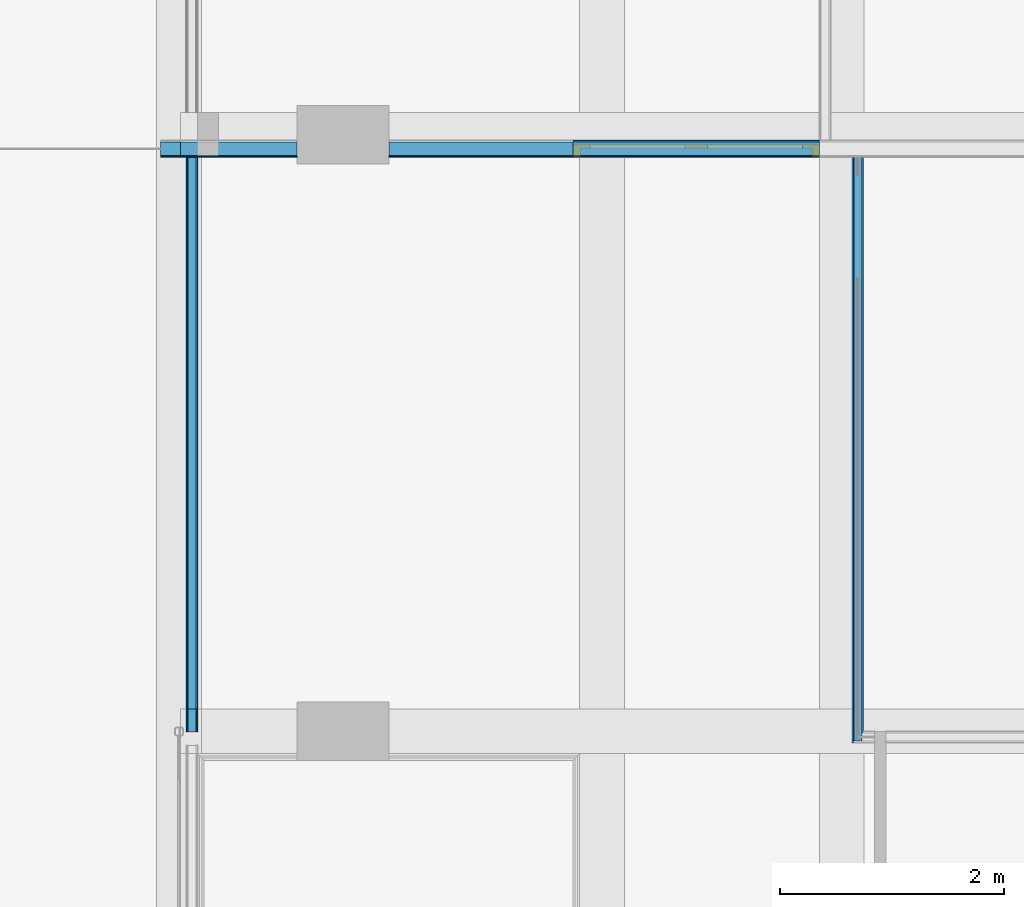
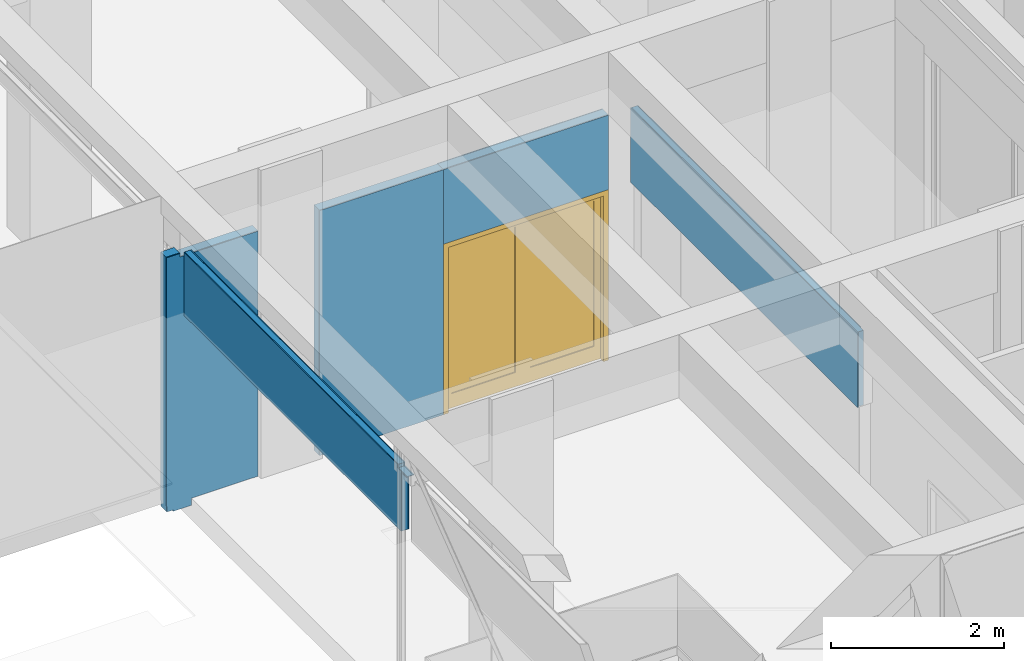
# One storey, part 79 of 117: 11 building element parts, 1 door, 1 opening, 4 elements without a shape of their own.
"""IFC2X3 building model written with IfcOpenShell, lengths in millimetres."""

from ifc_helpers import new_model, entity, si_unit, converted_unit, derived_unit, money_unit, direction, frame, origin_with_axes, place, context, subcontext, project, spatial, open_shell, faceted_brep, surface_model, material, type_object, element, fill, aggregate, save


model = new_model("IFC2X3")

# Units and contexts
model_context = context("Model", 3, precision=0.01, world=origin_with_axes(), true_north=direction((0.0, 1.0)))
body_context = subcontext(model_context, "Body", "Model", "MODEL_VIEW")
ifc_project = project(units=[si_unit("LENGTHUNIT", "METRE", prefix="MILLI"), si_unit("AREAUNIT", "SQUARE_METRE"), si_unit("VOLUMEUNIT", "CUBIC_METRE"), converted_unit("PLANEANGLEUNIT", "DEGREE", entity("IfcPlaneAngleMeasure", 0.0174532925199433), si_unit("PLANEANGLEUNIT", "RADIAN"), dimensions=[0, 0, 0, 0, 0, 0, 0]), money_unit("EUR"), converted_unit("TIMEUNIT", "Year", entity("IfcTimeMeasure", 31557600.0), si_unit("TIMEUNIT", "SECOND"), dimensions=[0, 0, 1, 0, 0, 0, 0]), si_unit("MASSUNIT", "GRAM", prefix="KILO"), si_unit("THERMODYNAMICTEMPERATUREUNIT", "DEGREE_CELSIUS"), si_unit("LUMINOUSINTENSITYUNIT", "LUMEN"), si_unit("ENERGYUNIT", "JOULE", prefix="MEGA"), derived_unit("THERMALCONDUCTANCEUNIT", [(si_unit("POWERUNIT", "WATT"), 1), (si_unit("LENGTHUNIT", "METRE"), -1), (si_unit("THERMODYNAMICTEMPERATUREUNIT", "KELVIN"), -1)]), derived_unit("SPECIFICHEATCAPACITYUNIT", [(si_unit("ENERGYUNIT", "JOULE"), 1), (si_unit("MASSUNIT", "GRAM", prefix="KILO"), -1), (si_unit("THERMODYNAMICTEMPERATUREUNIT", "KELVIN"), -1)]), derived_unit("MASSDENSITYUNIT", [(si_unit("MASSUNIT", "GRAM", prefix="KILO"), 1), (si_unit("VOLUMEUNIT", "CUBIC_METRE"), -1)])], contexts=[model_context])

# Site, building, storey
site_placement = place(None, origin_with_axes())
site = spatial("IfcSite", under=ifc_project, at=site_placement, Name="Site", CompositionType="ELEMENT")
building_placement = place(site_placement, origin_with_axes())
building = spatial("IfcBuilding", under=site, at=building_placement, Name="Naam gebouw", CompositionType="ELEMENT")
storey_placement = place(building_placement, frame((0.0, 0.0, 4150.0), z_axis=(0.0, 0.0, 1.0), x_axis=(1.0, 0.0, 0.0)))
storey = spatial("IfcBuildingStorey", under=building, at=storey_placement, Name="1e verdieping N", CompositionType="ELEMENT", Elevation=4150.0)

# Door
door_style = type_object("IfcDoorStyle", Name="D2 27", ConstructionType="NOTDEFINED", OperationType="DOUBLE_DOOR_SINGLE_SWING", ParameterTakesPrecedence=False, Sizeable=False)
wall_4_placement = place(storey_placement, frame((26092.64071208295, 33235.9124251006, -99.99999999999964), z_axis=(0.0, 0.0, 1.0), x_axis=(-1.0, 0.0, 0.0)))
opening_placement = place(wall_4_placement, frame((1099.982116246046, 0.0, 99.99999999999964), z_axis=(0.0, 0.0, 1.0), x_axis=(1.0, 0.0, 0.0)))
door_placement = place(opening_placement, frame((1099.982116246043, 0.0, 0.0), z_axis=(0.0, 0.0, 1.0), x_axis=(-1.0, 0.0, 0.0)))
door = element("IfcDoor", 1, at=door_placement, inside=storey, type_object=door_style, Name="_Merk-x", ObjectType="DOOR", OverallHeight=2400.0, OverallWidth=2199.96, context=body_context, shape_type="SurfaceModel", body=[
    faceted_brep([(67.00000000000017, -76.00000000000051, 0.0), (67.00000000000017, -76.00000000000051, 2333.0), (67.00000000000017, -149.9999999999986, 2333.0), (67.00000000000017, -149.9999999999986, 0.0), (50.00000000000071, -76.00000000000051, 2333.0), (50.00000000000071, -76.00000000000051, 0.0), (50.00000000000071, -36.00000000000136, 2333.0), (0.0, -36.00000000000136, 2333.0), (0.0, -149.9999999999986, 2333.0), (0.0, -149.9999999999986, 0.0), (0.0, -36.00000000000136, 0.0), (50.00000000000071, -36.00000000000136, 0.0)], [[[0, 1, 2, 3]], [[4, 1, 0, 5]], [[4, 6, 7, 8, 2, 1]], [[3, 2, 8, 9]], [[5, 0, 3, 9, 10, 11]], [[6, 4, 5, 11]], [[6, 11, 10, 7]], [[10, 9, 8, 7]]]),
    faceted_brep([(2149.964232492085, -76.00000000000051, 2333.0), (2132.964232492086, -76.00000000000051, 2333.0), (2132.964232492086, -149.9999999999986, 2333.0), (2199.964232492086, -149.9999999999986, 2333.0), (2199.964232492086, -36.00000000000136, 2333.0), (2149.964232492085, -36.00000000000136, 2333.0), (2149.964232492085, -76.00000000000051, 0.0), (2132.964232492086, -76.00000000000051, 0.0), (2132.964232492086, -149.9999999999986, 0.0), (2199.964232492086, -149.9999999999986, 0.0), (2199.964232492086, -36.00000000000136, 0.0), (2149.964232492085, -36.00000000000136, 0.0)], [[[0, 1, 2, 3, 4, 5]], [[1, 0, 6, 7]], [[1, 7, 8, 2]], [[3, 2, 8, 9]], [[4, 3, 9, 10]], [[11, 5, 4, 10]], [[0, 5, 11, 6]], [[6, 11, 10, 9, 8, 7]]]),
    faceted_brep([(50.00000000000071, -36.00000000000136, 2350.0), (50.00000000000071, -36.00000000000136, 2333.0), (0.0, -36.00000000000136, 2333.0), (0.0, -36.00000000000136, 2400.0), (2199.964232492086, -36.00000000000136, 2400.0), (2199.964232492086, -36.00000000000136, 2333.0), (2149.964232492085, -36.00000000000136, 2333.0), (2149.964232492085, -36.00000000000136, 2350.0), (50.00000000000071, -76.00000000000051, 2350.0), (50.00000000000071, -76.00000000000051, 2333.0), (67.00000000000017, -76.00000000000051, 2333.0), (67.00000000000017, -149.9999999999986, 2333.0), (0.0, -149.9999999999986, 2333.0), (0.0, -149.9999999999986, 2400.0), (2199.964232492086, -149.9999999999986, 2400.0), (2199.964232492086, -149.9999999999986, 2333.0), (2149.964232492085, -76.00000000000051, 2333.0), (2132.964232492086, -149.9999999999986, 2333.0), (2132.964232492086, -76.00000000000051, 2333.0), (2149.964232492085, -76.00000000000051, 2350.0)], [[[0, 1, 2, 3, 4, 5, 6, 7]], [[1, 0, 8, 9]], [[9, 10, 11, 12, 2, 1]], [[2, 12, 13, 3]], [[3, 13, 14, 4]], [[4, 14, 15, 5]], [[16, 6, 5, 15, 17, 18]], [[7, 6, 16, 19]], [[0, 7, 19, 8]], [[16, 18, 10, 9, 8, 19]], [[10, 18, 17, 11]], [[17, 15, 14, 13, 12, 11]]]),
    faceted_brep([(2149.964232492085, -36.00000000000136, 200.0000000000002), (2149.964232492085, -76.00000000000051, 200.0000000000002), (2049.964232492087, -76.00000000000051, 200.0000000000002), (2049.964232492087, -36.00000000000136, 200.0000000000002), (2149.964232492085, -36.00000000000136, 2250.0), (2149.964232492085, -76.00000000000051, 2250.0), (2049.964232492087, -76.00000000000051, 2250.0), (2049.964232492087, -36.00000000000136, 2250.0)], [[[0, 1, 2, 3]], [[4, 5, 1, 0]], [[1, 5, 6, 2]], [[3, 2, 6, 7]], [[0, 3, 7, 4]], [[7, 6, 5, 4]]]),
    faceted_brep([(1099.982116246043, -36.00000000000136, 200.0000000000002), (1099.982116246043, -76.00000000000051, 200.0000000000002), (1099.982116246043, -76.00000000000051, 2250.0), (1099.982116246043, -36.00000000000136, 2250.0), (1199.982116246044, -36.00000000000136, 200.0000000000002), (1199.982116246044, -76.00000000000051, 200.0000000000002), (1199.982116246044, -76.00000000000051, 2250.0), (1199.982116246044, -36.00000000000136, 2250.0)], [[[0, 1, 2, 3]], [[4, 5, 1, 0]], [[1, 5, 6, 2]], [[3, 2, 6, 7]], [[0, 3, 7, 4]], [[7, 6, 5, 4]]]),
    faceted_brep([(2149.964232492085, -36.00000000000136, 0.0), (2149.964232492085, -76.00000000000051, 0.0), (1099.982116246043, -76.00000000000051, 0.0), (1099.982116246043, -36.00000000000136, 0.0), (2149.964232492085, -36.00000000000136, 200.0000000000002), (2149.964232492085, -76.00000000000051, 200.0000000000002), (2049.964232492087, -76.00000000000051, 200.0000000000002), (1199.982116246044, -76.00000000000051, 200.0000000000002), (1099.982116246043, -76.00000000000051, 200.0000000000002), (1099.982116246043, -36.00000000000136, 200.0000000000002), (1199.982116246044, -36.00000000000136, 200.0000000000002), (2049.964232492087, -36.00000000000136, 200.0000000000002)], [[[0, 1, 2, 3]], [[4, 5, 1, 0]], [[1, 5, 6, 7, 8, 2]], [[3, 2, 8, 9]], [[0, 3, 9, 10, 11, 4]], [[11, 6, 5, 4]], [[10, 7, 6, 11]], [[9, 8, 7, 10]]]),
    faceted_brep([(2149.964232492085, -36.00000000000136, 2350.0), (2149.964232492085, -76.00000000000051, 2350.0), (2149.964232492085, -76.00000000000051, 2250.0), (2149.964232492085, -36.00000000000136, 2250.0), (1099.982116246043, -36.00000000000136, 2350.0), (1099.982116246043, -76.00000000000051, 2350.0), (1099.982116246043, -76.00000000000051, 2250.0), (1199.982116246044, -76.00000000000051, 2250.0), (2049.964232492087, -76.00000000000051, 2250.0), (2049.964232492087, -36.00000000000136, 2250.0), (1199.982116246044, -36.00000000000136, 2250.0), (1099.982116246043, -36.00000000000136, 2250.0)], [[[0, 1, 2, 3]], [[4, 5, 1, 0]], [[1, 5, 6, 7, 8, 2]], [[3, 2, 8, 9]], [[0, 3, 9, 10, 11, 4]], [[11, 6, 5, 4]], [[10, 7, 6, 11]], [[9, 8, 7, 10]]]),
    surface_model("IfcShellBasedSurfaceModel", [(2049.964232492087, -50.00000000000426, 200.0000000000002), (1199.982116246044, -50.00000000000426, 200.0000000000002), (1199.982116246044, -50.00000000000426, 2250.0), (2049.964232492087, -50.00000000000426, 2250.0)], [open_shell([[[0, 1, 2, 3]]])]),
    surface_model("IfcShellBasedSurfaceModel", [(2049.964232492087, -62.00000000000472, 200.0000000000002), (2049.964232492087, -62.00000000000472, 2250.0), (1199.982116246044, -62.00000000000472, 2250.0), (1199.982116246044, -62.00000000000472, 200.0000000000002)], [open_shell([[[0, 1, 2, 3]]])]),
    faceted_brep([(50.00000000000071, -36.00000000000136, 200.0000000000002), (149.9999999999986, -36.00000000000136, 200.0000000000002), (149.9999999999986, -76.00000000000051, 200.0000000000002), (50.00000000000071, -76.00000000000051, 200.0000000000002), (50.00000000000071, -36.00000000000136, 2250.0), (149.9999999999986, -36.00000000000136, 2250.0), (149.9999999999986, -76.00000000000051, 2250.0), (50.00000000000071, -76.00000000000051, 2250.0)], [[[0, 1, 2, 3]], [[0, 4, 5, 1]], [[1, 5, 6, 2]], [[3, 2, 6, 7]], [[4, 0, 3, 7]], [[5, 4, 7, 6]]]),
    faceted_brep([(1099.982116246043, -36.00000000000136, 200.0000000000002), (1099.982116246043, -36.00000000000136, 2250.0), (1099.982116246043, -76.00000000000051, 2250.0), (1099.982116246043, -76.00000000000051, 200.0000000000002), (999.9821162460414, -36.00000000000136, 200.0000000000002), (999.9821162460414, -36.00000000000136, 2250.0), (999.9821162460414, -76.00000000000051, 2250.0), (999.9821162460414, -76.00000000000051, 200.0000000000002)], [[[0, 1, 2, 3]], [[0, 4, 5, 1]], [[1, 5, 6, 2]], [[3, 2, 6, 7]], [[4, 0, 3, 7]], [[5, 4, 7, 6]]]),
    faceted_brep([(50.00000000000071, -36.00000000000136, 0.0), (1099.982116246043, -36.00000000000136, 0.0), (1099.982116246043, -76.00000000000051, 0.0), (50.00000000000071, -76.00000000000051, 0.0), (50.00000000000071, -36.00000000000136, 200.0000000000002), (149.9999999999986, -36.00000000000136, 200.0000000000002), (999.9821162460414, -36.00000000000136, 200.0000000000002), (1099.982116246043, -36.00000000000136, 200.0000000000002), (1099.982116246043, -76.00000000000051, 200.0000000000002), (999.9821162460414, -76.00000000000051, 200.0000000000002), (149.9999999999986, -76.00000000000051, 200.0000000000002), (50.00000000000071, -76.00000000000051, 200.0000000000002)], [[[0, 1, 2, 3]], [[0, 4, 5, 6, 7, 1]], [[1, 7, 8, 2]], [[3, 2, 8, 9, 10, 11]], [[4, 0, 3, 11]], [[5, 4, 11, 10]], [[6, 5, 10, 9]], [[7, 6, 9, 8]]]),
    faceted_brep([(50.00000000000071, -36.00000000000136, 2350.0), (50.00000000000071, -36.00000000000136, 2250.0), (50.00000000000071, -76.00000000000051, 2250.0), (50.00000000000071, -76.00000000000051, 2350.0), (1099.982116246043, -36.00000000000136, 2350.0), (1099.982116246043, -36.00000000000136, 2250.0), (999.9821162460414, -36.00000000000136, 2250.0), (149.9999999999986, -36.00000000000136, 2250.0), (149.9999999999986, -76.00000000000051, 2250.0), (999.9821162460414, -76.00000000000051, 2250.0), (1099.982116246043, -76.00000000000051, 2250.0), (1099.982116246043, -76.00000000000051, 2350.0)], [[[0, 1, 2, 3]], [[0, 4, 5, 6, 7, 1]], [[1, 7, 8, 2]], [[3, 2, 8, 9, 10, 11]], [[4, 0, 3, 11]], [[5, 4, 11, 10]], [[6, 5, 10, 9]], [[7, 6, 9, 8]]]),
    surface_model("IfcShellBasedSurfaceModel", [(149.9999999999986, -50.00000000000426, 200.0000000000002), (149.9999999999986, -50.00000000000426, 2250.0), (999.9821162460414, -50.00000000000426, 2250.0), (999.9821162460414, -50.00000000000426, 200.0000000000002)], [open_shell([[[0, 1, 2, 3]]])]),
    surface_model("IfcShellBasedSurfaceModel", [(149.9999999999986, -61.99999999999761, 200.0000000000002), (999.9821162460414, -62.00000000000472, 200.0000000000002), (999.9821162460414, -62.00000000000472, 2250.0), (149.9999999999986, -62.00000000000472, 2250.0)], [open_shell([[[0, 1, 2, 3]]])]),
])

# Wall, building element parts
wall_type_1 = type_object("IfcWallType", Name="Metalstud iso 100 100", PredefinedType="NOTDEFINED")
wall_1_placement = place(storey_placement, frame((20536.00000000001, 27950.91242634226, 2609.999999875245), z_axis=(0.0, 0.0, 1.0), x_axis=(0.0, 1.0, 0.0)))
wall_1 = element("IfcWall", 2, at=wall_1_placement, inside=storey, type_object=wall_type_1, Name="_Wand-x")
ifc_material_1 = material(Name="Isolatie - Steenwol LSW")
building_element_part_1_placement = place(wall_1_placement, origin_with_axes())
building_element_part_1 = element("IfcBuildingElementPart", 3, at=building_element_part_1_placement, material=ifc_material_1, Name="Isolatie - Steenwol LSW", context=body_context, shape_type="Brep", body=[
    faceted_brep([(204.9999987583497, 87.49999999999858, 890.0000001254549), (204.9999987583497, 12.49999999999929, 890.0000001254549), (5134.999936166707, 12.49999999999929, 890.0000001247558), (5134.999936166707, 87.49999999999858, 890.0000001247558), (204.9999987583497, 12.49999999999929, 839.9999999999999), (204.9999987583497, 87.49999999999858, 839.9999999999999), (0.0, 12.49999999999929, 839.9999999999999), (0.0, 12.49999999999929, 830.0000001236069), (119.9999999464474, 12.49999999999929, 830.0000001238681), (119.9999999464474, 12.49999999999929, 0.0), (5134.999936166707, 12.49999999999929, 0.0), (5134.999936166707, 87.49999999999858, 0.0), (119.9999999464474, 87.49999999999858, 0.0), (119.9999999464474, 87.49999999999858, 830.0000001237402), (0.0, 87.49999999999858, 830.0000001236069), (0.0, 87.49999999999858, 839.9999999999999)], [[[0, 1, 2, 3]], [[4, 1, 0, 5]], [[4, 6, 7, 8, 9, 10, 2, 1]], [[10, 11, 3, 2]], [[5, 0, 3, 11, 12, 13, 14, 15]], [[6, 4, 5, 15]], [[6, 15, 14, 7]], [[14, 13, 8, 7]], [[12, 9, 8, 13]], [[10, 9, 12, 11]]]),
])
ifc_material_2 = material(Name="Gipsplaat")
building_element_part_2_placement = place(wall_1_placement, origin_with_axes())
building_element_part_2 = element("IfcBuildingElementPart", 4, at=building_element_part_2_placement, material=ifc_material_2, Name="Gipsplaat", context=body_context, shape_type="Brep", body=[
    faceted_brep([(204.9999987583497, 12.49999999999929, 890.0000001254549), (204.9999987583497, 0.0, 890.0000001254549), (5134.999936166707, 0.0, 890.0000001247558), (5134.999936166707, 12.49999999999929, 890.0000001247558), (204.9999987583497, 0.0, 839.9999999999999), (204.9999987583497, 12.49999999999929, 839.9999999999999), (0.0, 0.0, 839.9999999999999), (0.0, 0.0, 830.0000001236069), (119.9999999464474, 0.0, 830.0000001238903), (119.9999999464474, 0.0, 0.0), (5134.999936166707, 0.0, 0.0), (5134.999936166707, 12.49999999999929, 0.0), (119.9999999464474, 12.49999999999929, 0.0), (119.9999999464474, 12.49999999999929, 830.0000001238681), (0.0, 12.49999999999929, 830.0000001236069), (0.0, 12.49999999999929, 839.9999999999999)], [[[0, 1, 2, 3]], [[4, 1, 0, 5]], [[4, 6, 7, 8, 9, 10, 2, 1]], [[10, 11, 3, 2]], [[5, 0, 3, 11, 12, 13, 14, 15]], [[6, 4, 5, 15]], [[6, 15, 14, 7]], [[14, 13, 8, 7]], [[12, 9, 8, 13]], [[10, 9, 12, 11]]]),
])
building_element_part_3_placement = place(wall_1_placement, origin_with_axes())
building_element_part_3 = element("IfcBuildingElementPart", 5, at=building_element_part_3_placement, material=ifc_material_2, Name="Gipsplaat", context=body_context, shape_type="Brep", body=[
    faceted_brep([(204.9999987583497, 100.0000000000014, 890.0000001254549), (204.9999987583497, 87.49999999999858, 890.0000001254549), (5134.999936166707, 87.49999999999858, 890.0000001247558), (5134.999936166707, 100.0000000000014, 890.0000001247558), (204.9999987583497, 87.49999999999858, 839.9999999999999), (204.9999987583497, 100.0000000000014, 839.9999999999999), (0.0, 87.49999999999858, 839.9999999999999), (0.0, 87.49999999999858, 830.0000001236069), (119.9999999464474, 87.49999999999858, 830.0000001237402), (119.9999999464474, 87.49999999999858, 0.0), (5134.999936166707, 87.49999999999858, 0.0), (5134.999936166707, 100.0000000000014, 0.0), (119.9999999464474, 100.0000000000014, 0.0), (119.9999999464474, 100.0000000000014, 830.0000001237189), (0.0, 100.0000000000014, 830.0000001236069), (0.0, 100.0000000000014, 839.9999999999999)], [[[0, 1, 2, 3]], [[4, 1, 0, 5]], [[4, 6, 7, 8, 9, 10, 2, 1]], [[10, 11, 3, 2]], [[5, 0, 3, 11, 12, 13, 14, 15]], [[6, 4, 5, 15]], [[6, 15, 14, 7]], [[14, 13, 8, 7]], [[12, 9, 8, 13]], [[10, 9, 12, 11]]]),
])
aggregate(wall_1, [building_element_part_1, building_element_part_2, building_element_part_3])

wall_2_placement = place(storey_placement, frame((26436.0, 27905.9134721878, 2400.0), z_axis=(0.0, 0.0, 1.0), x_axis=(0.0, 1.0, 0.0)))
wall_2 = element("IfcWall", 6, at=wall_2_placement, inside=storey, type_object=wall_type_1, Name="_Wand-x")
building_element_part_4_placement = place(wall_2_placement, origin_with_axes())
building_element_part_4 = element("IfcBuildingElementPart", 7, at=building_element_part_4_placement, material=ifc_material_2, Name="Gipsplaat", context=body_context, shape_type="Brep", body=[
    faceted_brep([(5179.998952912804, 37.50000000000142, 1049.999999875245), (5179.998952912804, 50.00000000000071, 1049.999999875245), (-49.94622616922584, 50.00000000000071, 1049.999999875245), (-49.95967686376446, 37.50000000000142, 1049.999999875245), (5179.998952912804, 37.50000000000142, 0.0), (5179.998952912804, 50.00000000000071, 0.0), (-49.94622616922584, 50.00000000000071, 0.0), (-49.95967686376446, 37.50000000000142, 0.0)], [[[0, 1, 2, 3]], [[0, 4, 5, 1]], [[1, 5, 6, 2]], [[3, 2, 6, 7]], [[4, 0, 3, 7]], [[5, 4, 7, 6]]]),
])
building_element_part_5_placement = place(wall_2_placement, origin_with_axes())
building_element_part_5 = element("IfcBuildingElementPart", 8, at=building_element_part_5_placement, material=ifc_material_2, Name="Gipsplaat", context=body_context, shape_type="Brep", body=[
    faceted_brep([(5179.998952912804, -50.00000000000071, 1049.999999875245), (5179.998952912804, -37.50000000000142, 1049.999999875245), (37.45966962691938, -37.50000000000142, 1049.999999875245), (37.44621893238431, -50.00000000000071, 1049.999999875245), (5179.998952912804, -50.00000000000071, 0.0), (5179.998952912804, -37.50000000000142, 0.0), (37.45966962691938, -37.50000000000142, 0.0), (37.44621893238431, -50.00000000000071, 0.0)], [[[0, 1, 2, 3]], [[0, 4, 5, 1]], [[1, 5, 6, 2]], [[3, 2, 6, 7]], [[4, 0, 3, 7]], [[5, 4, 7, 6]]]),
])
building_element_part_6_placement = place(wall_2_placement, origin_with_axes())
building_element_part_6 = element("IfcBuildingElementPart", 9, at=building_element_part_6_placement, material=ifc_material_1, Name="Isolatie - Steenwol LSW", context=body_context, shape_type="Brep", body=[
    faceted_brep([(5179.998952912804, -37.50000000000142, 1049.999999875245), (5179.998952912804, 37.50000000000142, 1049.999999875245), (-37.45966962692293, 37.50000000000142, 1049.999999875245), (-37.54037379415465, -37.50000000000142, 1049.999999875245), (5179.998952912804, -37.50000000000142, 0.0), (5179.998952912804, 37.50000000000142, 0.0), (-37.45966962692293, 37.50000000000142, 0.0), (-37.54037379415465, -37.50000000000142, 0.0)], [[[0, 1, 2, 3]], [[0, 4, 5, 1]], [[1, 5, 6, 2]], [[3, 2, 6, 7]], [[4, 0, 3, 7]], [[5, 4, 7, 6]]]),
])
aggregate(wall_2, [building_element_part_4, building_element_part_5, building_element_part_6])

# Wall, building element part
wall_type_2 = type_object("IfcWallType", Name="Metalstud iso 150 150", PredefinedType="NOTDEFINED")
wall_3_placement = place(storey_placement, frame((23892.67647959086, 33235.9124251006, -99.99999999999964), z_axis=(0.0, 0.0, 1.0), x_axis=(-1.0, 0.0, 0.0)))
wall_3 = element("IfcWall", 10, at=wall_3_placement, inside=storey, type_object=wall_type_2, Name="_Wand-x")
building_element_part_7_placement = place(wall_3_placement, origin_with_axes())
building_element_part_7 = element("IfcBuildingElementPart", 11, at=building_element_part_7_placement, material=ifc_material_1, Name="Isolatie - Steenwol LSW", context=body_context, shape_type="Brep", body=[
    faceted_brep([(2466.676479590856, 137.5000193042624, 3549.999999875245), (2466.676479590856, 12.49998490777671, 3549.999999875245), (3506.676479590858, 12.4999785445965, 3549.999999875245), (3506.676479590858, 137.5000274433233, 3549.999999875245), (2466.676479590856, 12.49998423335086, 99.99999999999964), (2466.676479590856, 137.500020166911, 99.99999999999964), (3356.676479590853, 12.4999785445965, 99.99999999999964), (3356.676479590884, 12.50000000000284, 0.0), (3596.676479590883, 12.50000000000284, 0.0), (3596.676479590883, 12.4999785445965, 20.00000000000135), (3681.676479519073, 12.49999871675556, 20.00000000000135), (3681.676479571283, 12.4999785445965, 99.99999999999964), (3686.676479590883, 12.49999951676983, 99.99999999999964), (3686.676479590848, 12.4999826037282, 3600.0), (3506.676479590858, 12.49998038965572, 3600.0), (3506.676479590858, 137.5000250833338, 3600.0), (3686.676479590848, 137.5000222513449, 3600.0), (3686.676479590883, 137.5000006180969, 99.99999999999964), (3681.676479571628, 137.5000274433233, 99.99999999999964), (3681.676479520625, 137.500001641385, 20.00000000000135), (3596.676479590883, 137.5000274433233, 20.00000000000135), (3596.676479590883, 137.5000000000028, 0.0), (3356.676479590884, 137.5000000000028, 0.0), (3356.676479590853, 137.5000274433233, 99.99999999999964)], [[[0, 1, 2, 3]], [[4, 1, 0, 5]], [[1, 4, 6, 7, 8, 9, 10, 11, 12, 13, 14, 2]], [[3, 2, 14, 15]], [[5, 0, 3, 15, 16, 17, 18, 19, 20, 21, 22, 23]], [[4, 5, 23, 6]], [[23, 22, 7, 6]], [[21, 8, 7, 22]], [[8, 21, 20, 9]], [[9, 20, 19, 10]], [[19, 18, 11, 10]], [[18, 17, 12, 11]], [[16, 13, 12, 17]], [[16, 15, 14, 13]]]),
    faceted_brep([(1646.676479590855, 12.49998947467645, 99.99999999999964), (1646.676479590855, 12.49998992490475, 3549.999999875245), (0.0, 12.50000000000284, 3549.999999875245), (0.0, 12.50000000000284, 99.99999999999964), (1646.676479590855, 137.5000128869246, 3549.999999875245), (1646.676479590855, 137.5000134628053, 99.99999999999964), (0.0, 137.5000000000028, 3549.999999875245), (0.0, 137.5000000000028, 99.99999999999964)], [[[0, 1, 2, 3]], [[4, 1, 0, 5]], [[1, 4, 6, 2]], [[3, 2, 6, 7]], [[5, 0, 3, 7]], [[4, 5, 7, 6]]]),
])

# Wall, opening
wall_4 = element("IfcWall", 12, at=wall_4_placement, inside=storey, type_object=wall_type_2, Name="_Wand-x")
opening = element("IfcOpeningElement", 13, at=opening_placement, cuts=wall_4, Name="_Merk-x", context=body_context, shape_type="Brep", body=[
    faceted_brep([(-1099.982116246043, -0.9999999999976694, 2400.0), (-1099.982116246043, -0.9999999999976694, 0.0), (1099.982116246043, -0.9999999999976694, 0.0), (1099.982116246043, -0.9999999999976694, 2400.0), (-1099.982116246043, 150.9999999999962, 2400.0), (-1099.982116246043, 150.9999999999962, 0.0), (1099.982116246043, 150.9999999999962, 0.0), (1099.982116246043, 150.9999999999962, 2400.0)], [[[0, 1, 2, 3]], [[4, 5, 1, 0]], [[5, 6, 2, 1]], [[6, 7, 3, 2]], [[7, 4, 0, 3]], [[6, 5, 4, 7]]]),
])

fill(opening, door)

# Building element part
building_element_part_8_placement = place(wall_4_placement, origin_with_axes())
building_element_part_8 = element("IfcBuildingElementPart", 14, at=building_element_part_8_placement, material=ifc_material_1, Name="Isolatie - Steenwol LSW", context=body_context, shape_type="Brep", body=[
    faceted_brep([(0.0, 137.5000000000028, 2500.0), (0.0, 12.50000000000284, 2500.0), (0.0, 12.50000000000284, 3549.999999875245), (0.0, 137.5000000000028, 3549.999999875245), (2199.964232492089, 12.50000000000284, 2500.0), (2199.964232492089, 137.5000000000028, 2500.0), (2199.964232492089, 12.50000000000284, 3549.999999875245), (2199.964232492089, 137.5000000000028, 3549.999999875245)], [[[0, 1, 2, 3]], [[4, 1, 0, 5]], [[1, 4, 6, 2]], [[2, 6, 7, 3]], [[5, 0, 3, 7]], [[4, 5, 7, 6]]]),
])

building_element_part_9_placement = place(wall_4_placement, origin_with_axes())
building_element_part_9 = element("IfcBuildingElementPart", 15, at=building_element_part_9_placement, material=ifc_material_2, Name="Gipsplaat", context=body_context, shape_type="Brep", body=[
    faceted_brep([(0.0, 12.50000000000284, 2500.0), (0.0, 0.0, 2500.0), (0.0, 0.0, 3549.999999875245), (0.0, 12.50000000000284, 3549.999999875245), (2199.964232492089, 0.0, 2500.0), (2199.964232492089, 12.50000000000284, 2500.0), (2199.964232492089, 0.0, 3549.999999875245), (2199.964232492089, 12.50000000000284, 3549.999999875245)], [[[0, 1, 2, 3]], [[4, 1, 0, 5]], [[1, 4, 6, 2]], [[2, 6, 7, 3]], [[5, 0, 3, 7]], [[4, 5, 7, 6]]]),
])

building_element_part_10_placement = place(wall_4_placement, origin_with_axes())
building_element_part_10 = element("IfcBuildingElementPart", 16, at=building_element_part_10_placement, material=ifc_material_2, Name="Gipsplaat", context=body_context, shape_type="Brep", body=[
    faceted_brep([(0.0, 149.9999999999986, 2500.0), (0.0, 137.5000000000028, 2500.0), (0.0, 137.5000000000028, 3549.999999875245), (0.0, 149.9999999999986, 3549.999999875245), (2199.964232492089, 137.5000000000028, 2500.0), (2199.964232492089, 149.9999999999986, 2500.0), (2199.964232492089, 137.5000000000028, 3549.999999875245), (2199.964232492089, 149.9999999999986, 3549.999999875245)], [[[0, 1, 2, 3]], [[4, 1, 0, 5]], [[1, 4, 6, 2]], [[2, 6, 7, 3]], [[5, 0, 3, 7]], [[4, 5, 7, 6]]]),
])

aggregate(wall_4, [building_element_part_8, building_element_part_9, building_element_part_10])

building_element_part_11_placement = place(wall_3_placement, origin_with_axes())
building_element_part_11 = element("IfcBuildingElementPart", 17, at=building_element_part_11_placement, material=ifc_material_2, Name="Gipsplaat", context=body_context, shape_type="Brep", body=[
    faceted_brep([(2466.676479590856, 149.9999999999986, 3549.999999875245), (2466.676479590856, 137.5000193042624, 3549.999999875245), (3506.676479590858, 137.5000274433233, 3549.999999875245), (3506.676479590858, 149.9999999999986, 3549.999999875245), (2466.676479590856, 137.500020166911, 99.99999999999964), (2466.676479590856, 150.0000044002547, 99.99999999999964), (3356.676479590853, 137.5000274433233, 99.99999999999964), (3356.676479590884, 137.5000000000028, 0.0), (3596.676479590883, 137.5000000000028, 0.0), (3596.676479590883, 137.5000274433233, 20.00000000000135), (3681.676479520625, 137.5000016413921, 20.00000000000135), (3681.676479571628, 137.5000274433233, 99.99999999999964), (3686.676479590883, 137.500000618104, 99.99999999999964), (3686.676479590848, 137.5000222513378, 3600.0), (3506.676479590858, 137.5000250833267, 3600.0), (3506.676479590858, 149.9999999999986, 3600.0), (3686.676479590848, 150.0000059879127, 3600.0), (3686.676479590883, 150.0000059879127, 99.99999999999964), (3681.67647957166, 150.0000059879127, 99.99999999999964), (3681.676479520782, 150.0000059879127, 20.00000000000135), (3596.676479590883, 150.0000059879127, 20.00000000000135), (3596.676479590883, 149.9999999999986, 0.0), (3356.676479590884, 149.9999999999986, 0.0), (3356.676479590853, 150.0000059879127, 99.99999999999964)], [[[0, 1, 2, 3]], [[4, 1, 0, 5]], [[1, 4, 6, 7, 8, 9, 10, 11, 12, 13, 14, 2]], [[3, 2, 14, 15]], [[5, 0, 3, 15, 16, 17, 18, 19, 20, 21, 22, 23]], [[4, 5, 23, 6]], [[23, 22, 7, 6]], [[21, 8, 7, 22]], [[8, 21, 20, 9]], [[9, 20, 19, 10]], [[19, 18, 11, 10]], [[18, 17, 12, 11]], [[16, 13, 12, 17]], [[16, 15, 14, 13]]]),
    faceted_brep([(1646.676479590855, 137.5000134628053, 99.99999999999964), (1646.676479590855, 137.5000128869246, 3549.999999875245), (0.0, 137.5000000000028, 3549.999999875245), (0.0, 137.5000000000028, 99.99999999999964), (1646.676479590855, 149.9999999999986, 3549.999999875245), (1646.676479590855, 150.0000029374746, 99.99999999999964), (0.0, 149.9999999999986, 3549.999999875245), (0.0, 149.9999999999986, 99.99999999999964)], [[[0, 1, 2, 3]], [[4, 1, 0, 5]], [[1, 4, 6, 2]], [[3, 2, 6, 7]], [[5, 0, 3, 7]], [[4, 5, 7, 6]]]),
])

aggregate(wall_3, [building_element_part_7, building_element_part_11])

save(model, "model.ifc")
